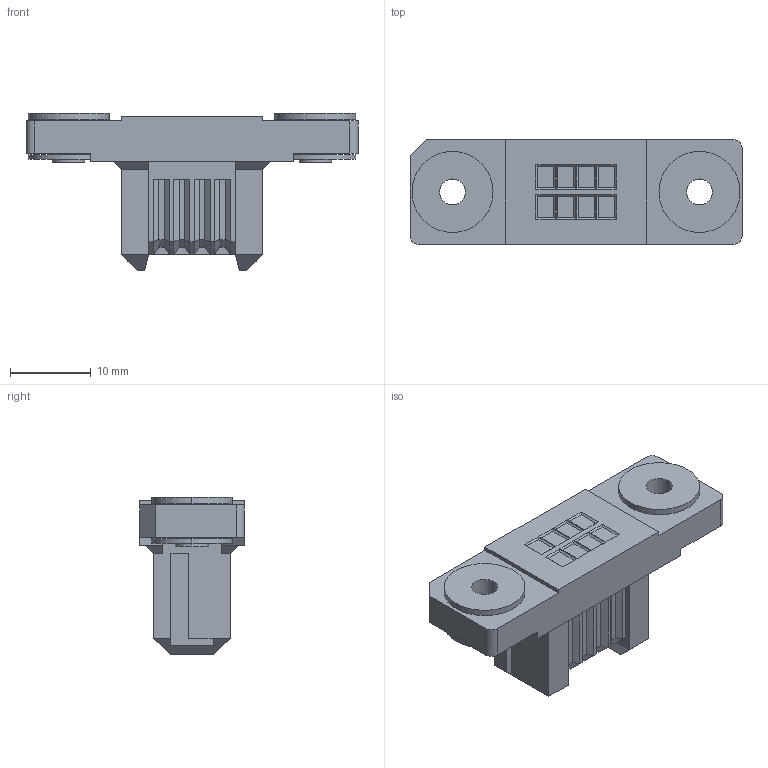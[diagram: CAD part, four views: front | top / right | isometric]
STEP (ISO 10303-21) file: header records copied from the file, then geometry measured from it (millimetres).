
FILE_DESCRIPTION(('CoCreate Modeling STEP Export'),'2;1');
FILE_NAME('P3A949_FA01-008-1.stp','2017-07-27T19:12:11',(''),(''),'CoCreate Modeling STEP processor for AP214 (Solid Model)','CoCreate Modeling 17.0B 09-Oct-2010 (C) Parametric Technology GmbH','');
FILE_SCHEMA(('AUTOMOTIVE_DESIGN { 1 0 10303 214 1 1 1 1 }'));
Length unit declared in the file: millimetre
Products named in the file (2): FA01-008-1
Assembly tree (1 placements, depth 2):
  FA01-008-1
    FA01-008-1
Bounding box: 41 x 12.9 x 19.45 mm (x, y, z)
Volume: 4258.7 mm3; surface area: 3074 mm2
Topology: 1 solids, 1 shells, 240 faces, 574 edges, 354 vertices
Faces by surface type: plane 213, cylinder 27
Entity records: 6641 total; most frequent: ORIENTED_EDGE 1148, CARTESIAN_POINT 1138, DIRECTION 1052, EDGE_CURVE 574, VECTOR 516, LINE 516, VERTEX_POINT 354, AXIS2_PLACEMENT_3D 268
